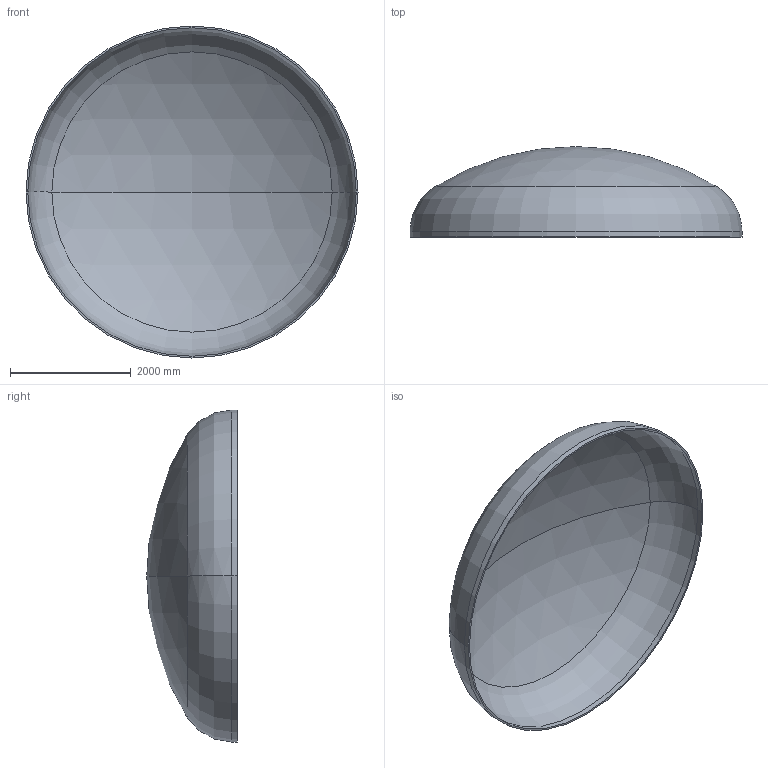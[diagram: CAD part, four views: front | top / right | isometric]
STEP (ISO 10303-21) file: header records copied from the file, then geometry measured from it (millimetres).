
FILE_DESCRIPTION (( 'STEP AP203' ), '1' );
FILE_NAME ('DIN 28013 Korbbogenform_-_Boden DIN 28013 - 5500 x 90 - I - s=29.step', '2016-07-04T10:33:52', ( '' ), ( '' ), 'SwSTEP 2.0', 'SolidWorks 2013', '' );
FILE_SCHEMA (( 'CONFIG_CONTROL_DESIGN' ));
Length unit declared in the file: millimetre
Products named in the file (1): DIN 28013 Korbbogenform_-_Boden DIN 28013 - 5500 x 90 - I - s=29
Bounding box: 5500 x 1499.29 x 5500 mm (x, y, z)
Volume: 992066878 mm3; surface area: 68918581.7 mm2
Topology: 1 solids, 1 shells, 13 faces, 24 edges, 14 vertices
Faces by surface type: torus 4, cylinder 4, sphere 4, plane 1
Entity records: 407 total; most frequent: DIRECTION 72, CARTESIAN_POINT 52, ORIENTED_EDGE 48, AXIS2_PLACEMENT_3D 34, EDGE_CURVE 24, CIRCLE 20, VERTEX_POINT 14, EDGE_LOOP 14
